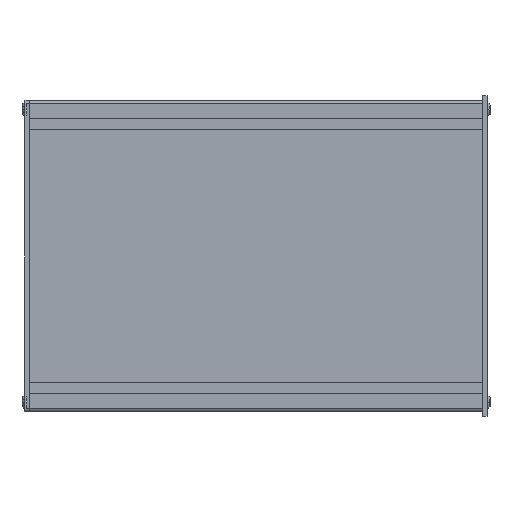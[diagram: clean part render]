
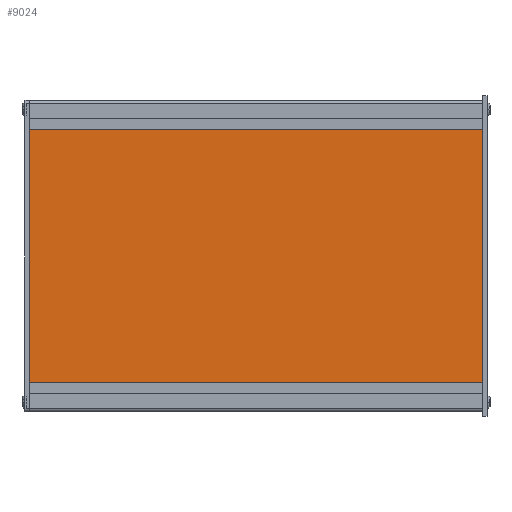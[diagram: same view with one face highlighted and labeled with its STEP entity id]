
A CAD part, left-side view. The second image highlights one B-rep face of the part: STEP entity #9024.
In plain terms, the highlighted planar face has unit normal (-1, 0, 0).
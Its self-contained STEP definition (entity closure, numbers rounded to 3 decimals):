
#992=PLANE('',#9904);
#1288=FACE_OUTER_BOUND('',#1844,.T.);
#1844=EDGE_LOOP('',(#6887,#6888,#6889,#6890));
#2674=LINE('',#14248,#3374);
#2684=LINE('',#14269,#3384);
#2685=LINE('',#14271,#3385);
#2686=LINE('',#14272,#3386);
#3374=VECTOR('',#11408,10.);
#3384=VECTOR('',#11426,10.);
#3385=VECTOR('',#11427,10.);
#3386=VECTOR('',#11428,10.);
#4430=VERTEX_POINT('',#14241);
#4433=VERTEX_POINT('',#14246);
#4440=VERTEX_POINT('',#14268);
#4441=VERTEX_POINT('',#14270);
#5317=EDGE_CURVE('',#4430,#4433,#2674,.T.);
#5327=EDGE_CURVE('',#4430,#4440,#2684,.T.);
#5328=EDGE_CURVE('',#4441,#4433,#2685,.T.);
#5329=EDGE_CURVE('',#4440,#4441,#2686,.T.);
#6887=ORIENTED_EDGE('',*,*,#5327,.F.);
#6888=ORIENTED_EDGE('',*,*,#5317,.T.);
#6889=ORIENTED_EDGE('',*,*,#5328,.F.);
#6890=ORIENTED_EDGE('',*,*,#5329,.F.);
#9024=ADVANCED_FACE('',(#1288),#992,.T.);
#9904=AXIS2_PLACEMENT_3D('',#14267,#11424,#11425);
#11408=DIRECTION('',(0.,1.,0.));
#11424=DIRECTION('center_axis',(-1.,0.,0.));
#11425=DIRECTION('ref_axis',(0.,0.,1.));
#11426=DIRECTION('',(0.,0.,-1.));
#11427=DIRECTION('',(0.,0.,1.));
#11428=DIRECTION('',(0.,1.,0.));
#14241=CARTESIAN_POINT('',(239.,0.,25.8));
#14246=CARTESIAN_POINT('',(239.,250.,25.8));
#14248=CARTESIAN_POINT('',(239.,0.,25.8));
#14267=CARTESIAN_POINT('Origin',(239.,0.,-113.9));
#14268=CARTESIAN_POINT('',(239.,0.,-113.9));
#14269=CARTESIAN_POINT('',(239.,0.,-44.05));
#14270=CARTESIAN_POINT('',(239.,250.,-113.9));
#14271=CARTESIAN_POINT('',(239.,250.,-44.05));
#14272=CARTESIAN_POINT('',(239.,0.,-113.9));
